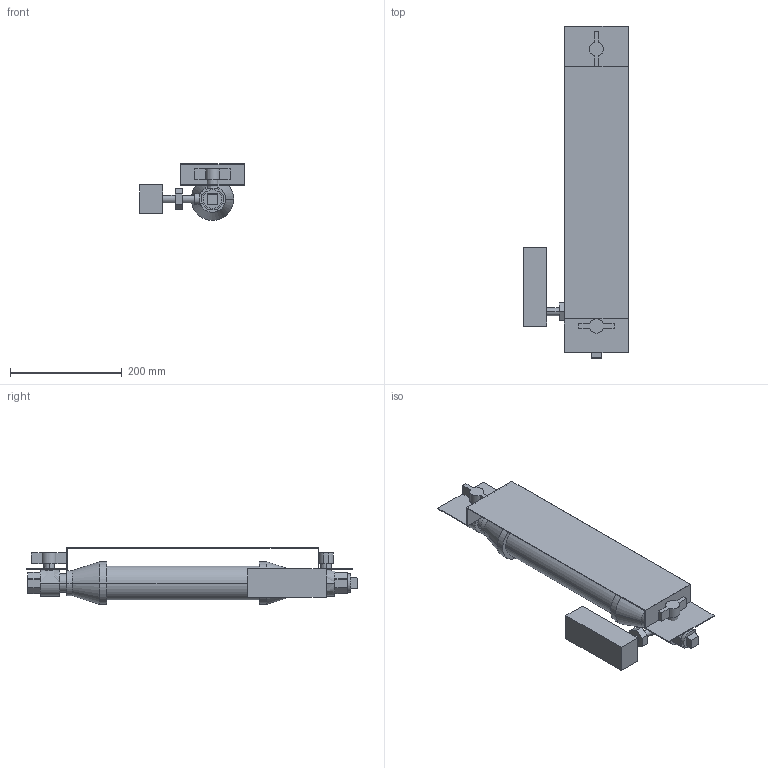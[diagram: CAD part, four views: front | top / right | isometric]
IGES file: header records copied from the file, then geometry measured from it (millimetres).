
Start section: SolidWorks IGES file using analytic representation for surfaces
Global section: file name: R:\AGF Eng Product Details\M5100 - COLLECTanDRAIN\Drawings\Website\M5100A.IGS; native system: SolidWorks 2013; preprocessor: SolidWorks 2013; author: RReed; date: 130221.155927; units: inch
Bounding box: 187.32 x 593.6 x 101.6 mm (x, y, z)
Volume: 1117894.6 mm3; surface area: 384805.1 mm2
Topology: 4 solids, 4 shells, 146 faces, 350 edges, 227 vertices
Faces by surface type: plane 82, revolution 64
